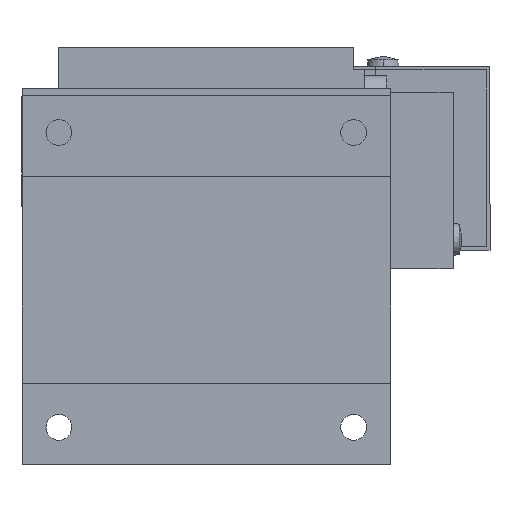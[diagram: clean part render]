
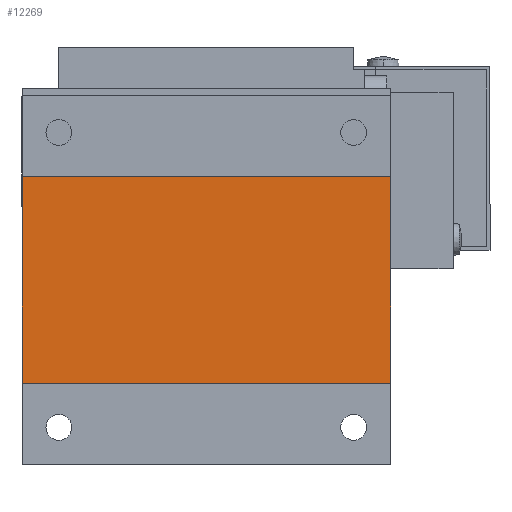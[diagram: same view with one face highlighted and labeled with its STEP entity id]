
A CAD part, front view. The second image highlights one B-rep face of the part: STEP entity #12269.
In plain terms, the highlighted planar face has unit normal (0, -1, 0).
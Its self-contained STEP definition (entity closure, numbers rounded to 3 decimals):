
#9023 = FACE_OUTER_BOUND ( 'NONE', #12288, .T. ) ;
#9031 = AXIS2_PLACEMENT_3D ( 'NONE', #9065, #9064, #9063 ) ;
#9037 = CARTESIAN_POINT ( 'NONE',  ( 25., 0.5, -11. ) ) ;
#9050 = DIRECTION ( 'NONE',  ( -1., 0., 0. ) ) ;
#9051 = VECTOR ( 'NONE', #9050, 1000. ) ;
#9053 = CARTESIAN_POINT ( 'NONE',  ( -25., 0.5, -11. ) ) ;
#9057 = LINE ( 'NONE', #9061, #9051 ) ;
#9061 = CARTESIAN_POINT ( 'NONE',  ( 25., 0.5, -11. ) ) ;
#9063 = DIRECTION ( 'NONE',  ( 0., 0., 1. ) ) ;
#9064 = DIRECTION ( 'NONE',  ( 0., 1., 0. ) ) ;
#9065 = CARTESIAN_POINT ( 'NONE',  ( 25., 0.5, -39. ) ) ;
#9073 = PLANE ( 'NONE',  #9031 ) ;
#9189 = VECTOR ( 'NONE', #9190, 1000. ) ;
#9190 = DIRECTION ( 'NONE',  ( 0., 0., -1. ) ) ;
#9191 = CARTESIAN_POINT ( 'NONE',  ( -25., 0.5, -39. ) ) ;
#9195 = LINE ( 'NONE', #9191, #9189 ) ;
#9282 = CARTESIAN_POINT ( 'NONE',  ( -25., 0.5, -39. ) ) ;
#9439 = VECTOR ( 'NONE', #9477, 1000. ) ;
#9440 = CARTESIAN_POINT ( 'NONE',  ( 25., 0.5, -39. ) ) ;
#9441 = LINE ( 'NONE', #9440, #9439 ) ;
#9477 = DIRECTION ( 'NONE',  ( -1., 0., 0. ) ) ;
#9602 = CARTESIAN_POINT ( 'NONE',  ( 25., 0.5, -39. ) ) ;
#9659 = DIRECTION ( 'NONE',  ( 0., 0., -1. ) ) ;
#9660 = VECTOR ( 'NONE', #9659, 1000. ) ;
#9661 = CARTESIAN_POINT ( 'NONE',  ( 25., 0.5, -39. ) ) ;
#9662 = LINE ( 'NONE', #9661, #9660 ) ;
#12221 = ORIENTED_EDGE ( 'NONE', *, *, #12361, .T. ) ;
#12256 = VERTEX_POINT ( 'NONE', #9037 ) ;
#12269 = ADVANCED_FACE ( 'NONE', ( #9023 ), #9073, .F. ) ;
#12272 = EDGE_CURVE ( 'NONE', #12256, #12273, #9057, .T. ) ;
#12273 = VERTEX_POINT ( 'NONE', #9053 ) ;
#12288 = EDGE_LOOP ( 'NONE', ( #12221, #12364, #12410, #12586 ) ) ;
#12361 = EDGE_CURVE ( 'NONE', #12273, #12413, #9195, .T. ) ;
#12364 = ORIENTED_EDGE ( 'NONE', *, *, #12490, .F. ) ;
#12410 = ORIENTED_EDGE ( 'NONE', *, *, #12604, .F. ) ;
#12413 = VERTEX_POINT ( 'NONE', #9282 ) ;
#12490 = EDGE_CURVE ( 'NONE', #12583, #12413, #9441, .T. ) ;
#12583 = VERTEX_POINT ( 'NONE', #9602 ) ;
#12586 = ORIENTED_EDGE ( 'NONE', *, *, #12272, .T. ) ;
#12604 = EDGE_CURVE ( 'NONE', #12256, #12583, #9662, .T. ) ;
